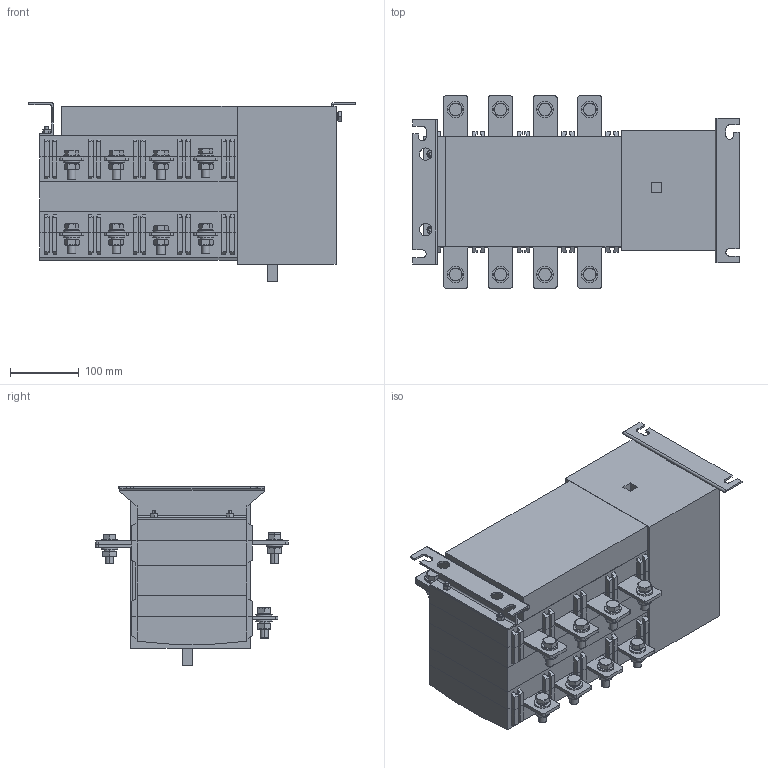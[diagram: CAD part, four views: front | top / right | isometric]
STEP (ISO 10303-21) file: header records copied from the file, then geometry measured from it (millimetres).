
FILE_DESCRIPTION((''),'2;1');
FILE_NAME('NH40-400-4SZ_ASM','2021-03-25T',('wangpeng'),(''),'PRO/ENGINEER BY PARAMETRIC TECHNOLOGY CORPORATION, 2009460','PRO/ENGINEER BY PARAMETRIC TECHNOLOGY CORPORATION, 2009460','');
FILE_SCHEMA(('AUTOMOTIVE_DESIGN { 1 0 10303 214 1 1 1 1 }'));
Length unit declared in the file: millimetre
Products named in the file (21): ZJBNH40-400-4SZ; SBNH40-400-4SZ; XBNH40-400-4SZ; SGNH40-400-4SZ; AZBNH40-400-4SZ; CTNH40-400-4SZ; DBNH40-400-4SZ; GNH40-400-4SZ; FZBNH40-400-4SZ; LJBNH40-400-4SZ; YAZBNH40-400-4SZ; LSM6; LMM6; PDQ8; TDQ8; 0LS8; PDQ12; TDQ12; LSM12; LMM12; NH40-400-4SZ_ASM
Assembly tree (92 placements, depth 2):
  NH40-400-4SZ_ASM
    ZJBNH40-400-4SZ
    SBNH40-400-4SZ
    XBNH40-400-4SZ  x2
    SGNH40-400-4SZ
    AZBNH40-400-4SZ
    CTNH40-400-4SZ  x4
    DBNH40-400-4SZ
    GNH40-400-4SZ
    FZBNH40-400-4SZ
    LJBNH40-400-4SZ  x4
    YAZBNH40-400-4SZ
    LSM6  x2
    LMM6  x2
    PDQ8
    TDQ8
    0LS8
    PDQ12  x24
    TDQ12  x18
    LSM12  x12
    LMM12  x13
Bounding box: 475 x 280 x 260 mm (x, y, z)
Volume: 16265553 mm3; surface area: 1345102.5 mm2
Topology: 92 solids, 92 shells, 1748 faces, 4392 edges, 2845 vertices
Faces by surface type: plane 1118, cylinder 354, cone 268, bspline 6, torus 2
Entity records: 26259 total; most frequent: CARTESIAN_POINT 6257, ORIENTED_EDGE 3870, DIRECTION 3630, EDGE_CURVE 1935, VECTOR 1614, LINE 1614, VERTEX_POINT 1283, AXIS2_PLACEMENT_3D 1008
